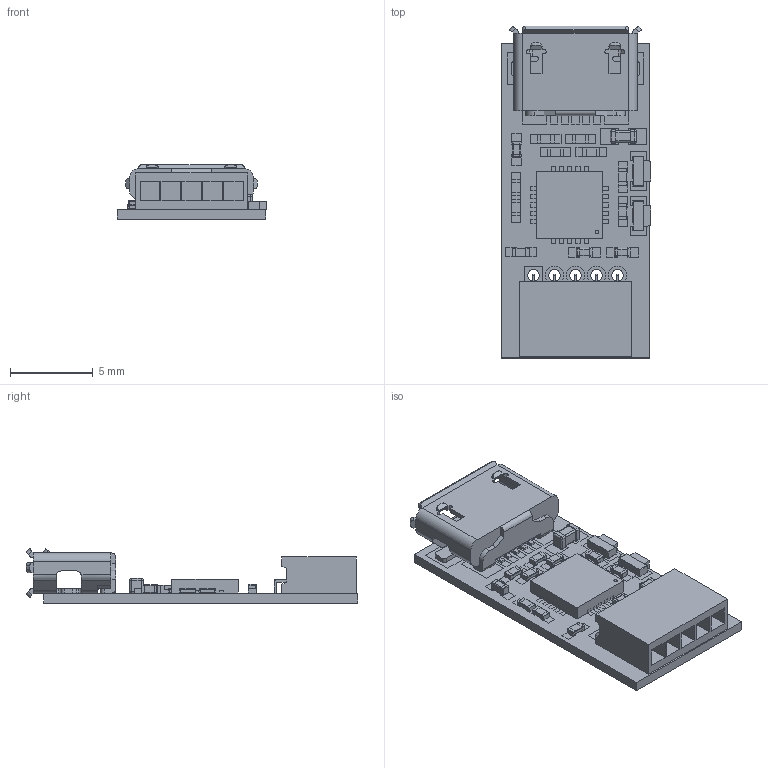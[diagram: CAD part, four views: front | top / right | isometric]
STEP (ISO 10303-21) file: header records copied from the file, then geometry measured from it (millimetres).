
FILE_DESCRIPTION(('FreeCAD Model'),'2;1');
FILE_NAME('/home/devy/MEGA/TinyCircuits/Assets/BoardsANDBoardModels_2/TinyLily/TinyCircuits-TinyLily_USB-ASL2111/cad/TinyLily_USB_ASL2111_REV4-STEP.step','2020-08-28T02:40:24',('Author'),(''), 'Open CASCADE STEP processor 7.4','FreeCAD','Unknown');
FILE_SCHEMA(('AUTOMOTIVE_DESIGN { 1 0 10303 214 1 1 1 1 }'));
Products named in the file (1): TinyLily_USB_ASL2111_REV4-STEP
Bounding box: 9.06 x 20.07 x 3.3 mm (x, y, z)
Volume: 206.1 mm3; surface area: 984.1 mm2
Topology: 126 solids, 126 shells, 1407 faces, 3924 edges, 3312 vertices
Faces by surface type: plane 1195, cylinder 175, sphere 32, revolution 5
Full cylindrical faces by diameter (mm): 0.702 x15, 1.106 x8
Entity records: 101200 total; most frequent: CARTESIAN_POINT 17554, DIRECTION 13401, LINE 9208, VECTOR 9208, ORIENTED_EDGE 6568, PCURVE 6568, DEFINITIONAL_REPRESENTATION 6568, EDGE_CURVE 3284
